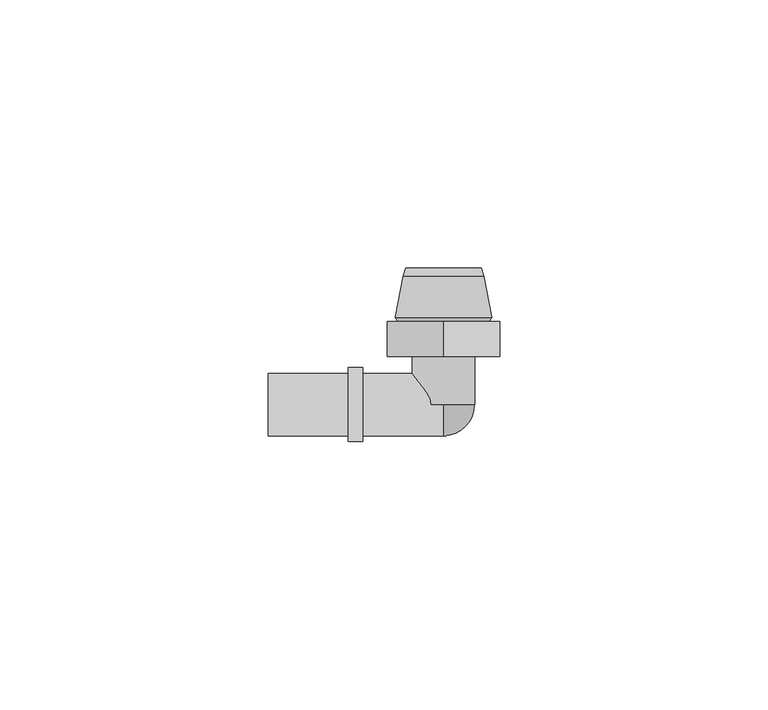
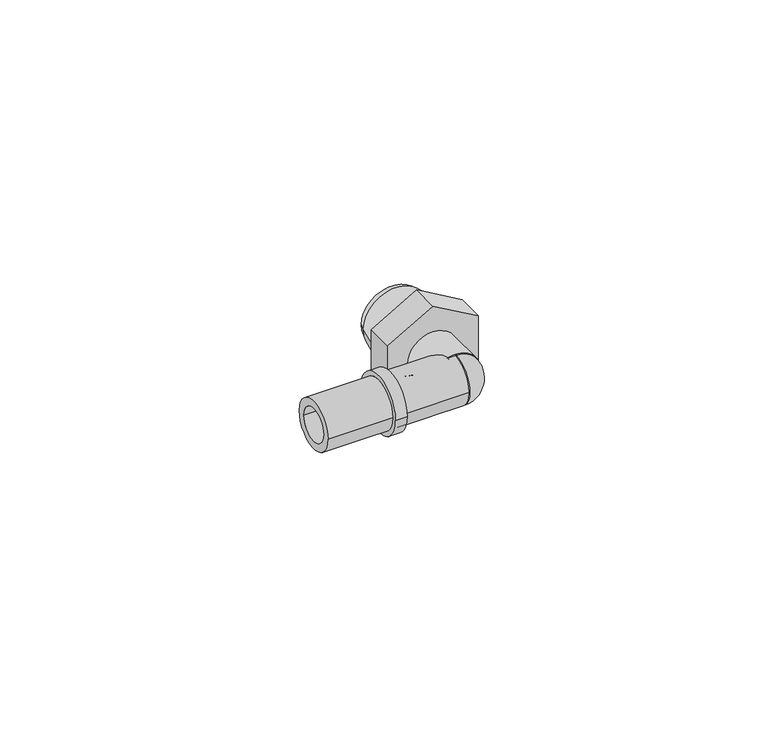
"""IFC4 building model written with IfcOpenShell, lengths in millimetres: pipe fitting geometry, FASTLOC_Elbow with male thread G LX : FSL A internal PL."""

from ifc_helpers import new_model, si_unit, point, frame, origin, origin_2d, place, context, project, spatial, polyline, circle_curve, ellipse_curve, trimmed, segment, composite_curve, outline, extrude, source, transform, mapped, element, save
from ifc_brep_helpers import plane_surface, cylinder_surface, revolved_surface, advanced_brep


def pipe_fitting_c4201b5f(model_context):
    return source(origin(), model_context, "Body", "SolidModel", [
        extrude(outline(composite_curve([segment(trimmed(circle_curve(origin_2d(), 5.8), [point((0.0, -5.8))], [point((0.0, 5.8))], False, "CARTESIAN"), True, "CONTINUOUS"), segment(trimmed(circle_curve(origin_2d(), 5.8), [point((0.0, 5.8))], [point((0.0, -5.8))], False, "CARTESIAN"), True, "CONTINUOUS")], self_intersect=False), holes=[composite_curve([segment(trimmed(circle_curve(origin_2d(), 3.95), [point((0.0, -3.95))], [point((0.0, 3.95))], True, "CARTESIAN"), True, "CONTINUOUS"), segment(trimmed(circle_curve(origin_2d(), 3.95), [point((0.0, 3.95))], [point((0.0, -3.95))], True, "CARTESIAN"), True, "CONTINUOUS")], self_intersect=False)]), frame((0.0, 0.0, 0.0), z_axis=(0.0, 1.0, 0.0), x_axis=(0.0, 0.0, 1.0)), (0.0, 0.0, 1.0), 9.0),
        extrude(outline(polyline([(-6.0621778, 10.5), (6.0621778, 10.5), (12.1243557, 0.0), (6.0621778, -10.5), (-6.0621778, -10.5), (-12.1243557, 0.0), (-6.0621778, 10.5)])), frame((0.0, 9.0, 0.0), z_axis=(0.0, 1.0, 0.0), x_axis=(0.0, 0.0, 1.0)), (0.0, 0.0, 1.0), 6.5),
        advanced_brep(
        [(0.0, -5.8, 0.0), (0.0, 0.0, 5.8), (0.0, 0.0, 3.75), (0.0, -3.75, 0.0), (0.0, 0.0, -3.75), (0.0, 0.0, -5.8)],
        [
            (0, 1, circle_curve(frame((0.0, 0.0, 0.0), z_axis=(-1.0, 0.0, 0.0), x_axis=(0.0, 0.0, 1.0)), 5.8)),
            (1, 2),
            (2, 3, circle_curve(frame((0.0, 0.0, 0.0), z_axis=(1.0, 0.0, 0.0), x_axis=(0.0, 0.0, 1.0)), 3.75)),
            (3, 0),
            (3, 4, circle_curve(frame((0.0, 0.0, 0.0), z_axis=(1.0, 0.0, 0.0), x_axis=(0.0, 0.0, -1.0)), 3.75)),
            (4, 5),
            (5, 0, circle_curve(frame((0.0, 0.0, 0.0), z_axis=(-1.0, 0.0, 0.0), x_axis=(0.0, 0.0, -1.0)), 5.8)),
            (5, 1, circle_curve(frame((0.0, 0.0, 0.0), z_axis=(0.0, -1.0, 0.0), x_axis=(0.0, 0.0, 1.0)), 5.8)),
            (4, 2, circle_curve(frame((0.0, 0.0, 0.0), z_axis=(0.0, -1.0, 0.0), x_axis=(0.0, 0.0, 1.0)), 3.75)),
        ],
        [
            plane_surface(frame((0.0, 0.0, 0.0), z_axis=(-1.0, 0.0, 0.0), x_axis=(0.0, 0.0, 1.0))),
            plane_surface(frame((0.0, 0.0, 0.0), z_axis=(-1.0, 0.0, 0.0), x_axis=(0.0, 0.0, -1.0))),
            revolved_surface(trimmed(ellipse_curve(frame((0.0, 0.0, 0.0), z_axis=(-1.0, 0.0, 0.0), x_axis=(0.0, 0.0, 1.0)), 5.8, 5.8), [point((0.0, -5.8, 0.0))], [point((0.0, 0.0, 5.8))], True, "CARTESIAN"), (0.0, 0.0, 0.0), (0.0, 1.0, 0.0)),
            plane_surface(frame((0.0, 0.0, 0.0), z_axis=(0.0, 1.0, 0.0), x_axis=(0.0, 0.0, 1.0))),
            revolved_surface(trimmed(ellipse_curve(frame((0.0, 0.0, 0.0), z_axis=(1.0, 0.0, 0.0), x_axis=(0.0, 0.0, 1.0)), 3.75, 3.75), [point((0.0, 0.0, 3.75))], [point((0.0, -3.75, 0.0))], True, "CARTESIAN"), (0.0, 0.0, 0.0), (0.0, 1.0, 0.0)),
        ],
        [
            (0, [[1, 2, 3, 4]]),
            (1, [[5, 6, 7, -4]]),
            (2, [[8, -1, -7]]),
            (3, [[9, -2, -8, -6]]),
            (4, [[-3, -9, -5]]),
        ],
    ),
        advanced_brep(
        [(7.5, 24.0000007, 0.0), (-7.5, 24.0000007, 0.0), (-7.0, 25.5, 0.0), (7.0, 25.5, 0.0), (9.0, 16.2406902, 0.0), (-9.0, 16.2406902, 0.0), (8.5, 15.5, 0.0), (-8.5, 15.5, 0.0), (5.1, 16.6032803, 0.0), (-5.1, 16.6032803, 0.0), (-3.9967197, 15.5, 0.0), (3.9967197, 15.5, 0.0), (5.1, 25.5, 0.0), (-5.1, 25.5, 0.0)],
        [
            (0, 1, circle_curve(frame((0.0, 24.0000007, 0.0), z_axis=(0.0, 1.0, 0.0), x_axis=(-1.0, 0.0, 0.0)), 7.5)),
            (1, 2),
            (2, 3, circle_curve(frame((0.0, 25.5, 0.0), z_axis=(0.0, -1.0, 0.0), x_axis=(-1.0, 0.0, 0.0)), 7.0)),
            (3, 0),
            (4, 5, circle_curve(frame((0.0, 16.2406902, 0.0), z_axis=(0.0, 1.0, 0.0), x_axis=(-1.0, 0.0, 0.0)), 9.0)),
            (5, 1),
            (0, 4),
            (6, 7, circle_curve(frame((0.0, 15.5, 0.0), z_axis=(0.0, 1.0, 0.0), x_axis=(-1.0, 0.0, 0.0)), 8.5)),
            (7, 5),
            (4, 6),
            (8, 9, circle_curve(frame((0.0, 16.6032803, 0.0), z_axis=(0.0, 1.0, 0.0), x_axis=(-1.0, 0.0, 0.0)), 5.1)),
            (9, 10),
            (10, 11, circle_curve(frame((0.0, 15.5, 0.0), z_axis=(0.0, -1.0, 0.0), x_axis=(-1.0, 0.0, 0.0)), 3.9967197)),
            (11, 8),
            (12, 13, circle_curve(frame((0.0, 25.5, 0.0), z_axis=(0.0, 1.0, 0.0), x_axis=(-1.0, 0.0, 0.0)), 5.1)),
            (13, 9),
            (8, 12),
            (2, 3, circle_curve(frame((0.0, 25.5, 0.0), z_axis=(0.0, 1.0, 0.0), x_axis=(1.0, 0.0, 0.0)), 7.0)),
            (12, 13, circle_curve(frame((0.0, 25.5, 0.0), z_axis=(0.0, -1.0, 0.0), x_axis=(1.0, 0.0, 0.0)), 5.1)),
            (1, 0, circle_curve(frame((0.0, 24.0000007, 0.0), z_axis=(0.0, 1.0, 0.0), x_axis=(1.0, 0.0, 0.0)), 7.5)),
            (5, 4, circle_curve(frame((0.0, 16.2406902, 0.0), z_axis=(0.0, 1.0, 0.0), x_axis=(1.0, 0.0, 0.0)), 9.0)),
            (7, 6, circle_curve(frame((0.0, 15.5, 0.0), z_axis=(0.0, 1.0, 0.0), x_axis=(1.0, 0.0, 0.0)), 8.5)),
            (10, 11, circle_curve(frame((0.0, 15.5, 0.0), z_axis=(0.0, 1.0, 0.0), x_axis=(1.0, 0.0, 0.0)), 3.9967197)),
            (9, 8, circle_curve(frame((0.0, 16.6032803, 0.0), z_axis=(0.0, 1.0, 0.0), x_axis=(1.0, 0.0, 0.0)), 5.1)),
        ],
        [
            revolved_surface(polyline([(-7.0, 25.5, 0.0), (-7.5, 24.0000007, 0.0)]), (0.0, 9.0, 0.0), (0.0, -1.0, 0.0)),
            revolved_surface(polyline([(-7.5, 24.0000007, 0.0), (-9.0, 16.2406902, 0.0)]), (0.0, 9.0, 0.0), (0.0, -1.0, 0.0)),
            revolved_surface(polyline([(-9.0, 16.2406902, 0.0), (-8.5, 15.5, 0.0)]), (0.0, 9.0, 0.0), (0.0, -1.0, 0.0)),
            revolved_surface(polyline([(-3.9967197, 15.5, 0.0), (-5.1, 16.6032803, 0.0)]), (0.0, 9.0, 0.0), (0.0, -1.0, 0.0)),
            revolved_surface(polyline([(-5.1, 16.6032803, 0.0), (-5.1, 25.5, 0.0)]), (0.0, 9.0, 0.0), (0.0, -1.0, 0.0)),
            plane_surface(frame((0.0, 25.5, 0.0), z_axis=(0.0, 1.0, 0.0), x_axis=(1.0, 0.0, 0.0))),
            revolved_surface(polyline([(7.0, 25.5, 0.0), (7.5, 24.0000007, 0.0)]), (0.0, 9.0, 0.0), (0.0, -1.0, 0.0)),
            revolved_surface(polyline([(7.5, 24.0000007, 0.0), (9.0, 16.2406902, 0.0)]), (0.0, 9.0, 0.0), (0.0, -1.0, 0.0)),
            revolved_surface(polyline([(9.0, 16.2406902, 0.0), (8.5, 15.5, 0.0)]), (0.0, 9.0, 0.0), (0.0, -1.0, 0.0)),
            plane_surface(frame((0.0, 15.5, 0.0), z_axis=(0.0, -1.0, 0.0), x_axis=(1.0, 0.0, 0.0))),
            revolved_surface(polyline([(3.9967197, 15.5, 0.0), (5.1, 16.6032803, 0.0)]), (0.0, 9.0, 0.0), (0.0, -1.0, 0.0)),
            revolved_surface(polyline([(5.1, 16.6032803, 0.0), (5.1, 25.5, 0.0)]), (0.0, 9.0, 0.0), (0.0, -1.0, 0.0)),
        ],
        [
            (0, [[1, 2, 3, 4]]),
            (1, [[5, 6, -1, 7]]),
            (2, [[8, 9, -5, 10]]),
            (3, [[11, 12, 13, 14]]),
            (4, [[15, 16, -11, 17]]),
            (5, [[18, -3], [19, -15]]),
            (6, [[20, -4, -18, -2]]),
            (7, [[21, -7, -20, -6]]),
            (8, [[22, -10, -21, -9]]),
            (9, [[-22, -8], [23, -13]]),
            (10, [[24, -14, -23, -12]]),
            (11, [[-19, -17, -24, -16]]),
        ],
    ),
        advanced_brep(
        [(-17.8, 5.8, 0.0), (-17.8, -5.8, 0.0), (-32.7, -5.8, 0.0), (-32.7, 5.8, 0.0), (-15.1, 6.9, 0.0), (-15.1, -6.9, 0.0), (-17.8, -6.9, 0.0), (-17.8, 6.9, 0.0), (0.0, 5.8, 0.0), (0.0, -5.8, 0.0), (-15.1, -5.8, 0.0), (-15.1, 5.8, 0.0), (-32.7, 3.95, 0.0), (-32.7, -3.95, 0.0), (0.0, -3.95, 0.0), (0.0, 3.95, 0.0)],
        [
            (0, 1, circle_curve(frame((-17.8, 0.0, 0.0), z_axis=(-1.0, 0.0, 0.0), x_axis=(0.0, -1.0, 0.0)), 5.8)),
            (1, 2),
            (2, 3, circle_curve(frame((-32.7, 0.0, 0.0), z_axis=(1.0, 0.0, 0.0), x_axis=(0.0, -1.0, 0.0)), 5.8)),
            (3, 0),
            (4, 5, circle_curve(frame((-15.1, 0.0, 0.0), z_axis=(-1.0, 0.0, 0.0), x_axis=(0.0, -1.0, 0.0)), 6.9)),
            (5, 6),
            (6, 7, circle_curve(frame((-17.8, 0.0, 0.0), z_axis=(1.0, 0.0, 0.0), x_axis=(0.0, -1.0, 0.0)), 6.9)),
            (7, 4),
            (8, 9, circle_curve(frame((0.0, 0.0, 0.0), z_axis=(-1.0, 0.0, 0.0), x_axis=(0.0, -1.0, 0.0)), 5.8)),
            (9, 10),
            (10, 11, circle_curve(frame((-15.1, 0.0, 0.0), z_axis=(1.0, 0.0, 0.0), x_axis=(0.0, -1.0, 0.0)), 5.8)),
            (11, 8),
            (12, 13, circle_curve(frame((-32.7, 0.0, 0.0), z_axis=(-1.0, 0.0, 0.0), x_axis=(0.0, -1.0, 0.0)), 3.95)),
            (13, 14),
            (14, 15, circle_curve(frame((0.0, 0.0, 0.0), z_axis=(1.0, 0.0, 0.0), x_axis=(0.0, -1.0, 0.0)), 3.95)),
            (15, 12),
            (2, 3, circle_curve(frame((-32.7, 0.0, 0.0), z_axis=(-1.0, 0.0, 0.0), x_axis=(0.0, 1.0, 0.0)), 5.8)),
            (12, 13, circle_curve(frame((-32.7, 0.0, 0.0), z_axis=(1.0, 0.0, 0.0), x_axis=(0.0, 1.0, 0.0)), 3.95)),
            (1, 0, circle_curve(frame((-17.8, 0.0, 0.0), z_axis=(-1.0, 0.0, 0.0), x_axis=(0.0, 1.0, 0.0)), 5.8)),
            (6, 7, circle_curve(frame((-17.8, 0.0, 0.0), z_axis=(-1.0, 0.0, 0.0), x_axis=(0.0, 1.0, 0.0)), 6.9)),
            (5, 4, circle_curve(frame((-15.1, 0.0, 0.0), z_axis=(-1.0, 0.0, 0.0), x_axis=(0.0, 1.0, 0.0)), 6.9)),
            (10, 11, circle_curve(frame((-15.1, 0.0, 0.0), z_axis=(-1.0, 0.0, 0.0), x_axis=(0.0, 1.0, 0.0)), 5.8)),
            (9, 8, circle_curve(frame((0.0, 0.0, 0.0), z_axis=(-1.0, 0.0, 0.0), x_axis=(0.0, 1.0, 0.0)), 5.8)),
            (14, 15, circle_curve(frame((0.0, 0.0, 0.0), z_axis=(-1.0, 0.0, 0.0), x_axis=(0.0, 1.0, 0.0)), 3.95)),
        ],
        [
            cylinder_surface(frame((0.0, 0.0, 0.0), z_axis=(1.0, 0.0, 0.0), x_axis=(0.0, -1.0, 0.0)), 5.8),
            cylinder_surface(frame((0.0, 0.0, 0.0), z_axis=(1.0, 0.0, 0.0), x_axis=(0.0, -1.0, 0.0)), 6.9),
            revolved_surface(polyline([(0.0, -3.95, 0.0), (-32.7, -3.95, 0.0)]), (0.0, 0.0, 0.0), (1.0, 0.0, 0.0)),
            plane_surface(frame((-32.7, 0.0, 0.0), z_axis=(-1.0, 0.0, 0.0), x_axis=(0.0, 1.0, 0.0))),
            cylinder_surface(frame((0.0, 0.0, 0.0), z_axis=(1.0, 0.0, 0.0), x_axis=(0.0, 1.0, 0.0)), 5.8),
            plane_surface(frame((-17.8, 0.0, 0.0), z_axis=(-1.0, 0.0, 0.0), x_axis=(0.0, 1.0, 0.0))),
            cylinder_surface(frame((0.0, 0.0, 0.0), z_axis=(1.0, 0.0, 0.0), x_axis=(0.0, 1.0, 0.0)), 6.9),
            plane_surface(frame((-15.1, 0.0, 0.0), z_axis=(1.0, 0.0, 0.0), x_axis=(0.0, 1.0, 0.0))),
            plane_surface(frame((0.0, 0.0, 0.0), z_axis=(1.0, 0.0, 0.0), x_axis=(0.0, 1.0, 0.0))),
            revolved_surface(polyline([(0.0, 3.95, 0.0), (-32.7, 3.95, 0.0)]), (0.0, 0.0, 0.0), (1.0, 0.0, 0.0)),
        ],
        [
            (0, [[1, 2, 3, 4]]),
            (1, [[5, 6, 7, 8]]),
            (0, [[9, 10, 11, 12]]),
            (2, [[13, 14, 15, 16]]),
            (3, [[17, -3], [18, -13]]),
            (4, [[19, -4, -17, -2]]),
            (5, [[20, -7], [-19, -1]]),
            (6, [[21, -8, -20, -6]]),
            (7, [[-21, -5], [22, -11]]),
            (4, [[23, -12, -22, -10]]),
            (8, [[-23, -9], [24, -15]]),
            (9, [[-18, -16, -24, -14]]),
        ],
    ),
    ])


if __name__ == "__main__":
    model = new_model("IFC4")
    model_context = context("Model", 3, world=origin())
    ifc_project = project(units=[si_unit("LENGTHUNIT", "METRE", prefix="MILLI")], contexts=[model_context])
    site = spatial("IfcSite", under=ifc_project)
    building = spatial("IfcBuilding", under=site)
    placement = place(None, origin())
    pipe_fitting_shape = pipe_fitting_c4201b5f(model_context)
    element("IfcPipeFitting", 1, ObjectType="FASTLOC_Elbow with male thread G LX : FSL A internal PL", at=placement, inside=building, context=model_context, shape_type="MappedRepresentation", body=[
        mapped(pipe_fitting_shape, transform((0.0, 0.0, 0.0), x_axis=(1.0, 0.0, 0.0), y_axis=(0.0, 1.0, 0.0), z_axis=(0.0, 0.0, 1.0))),
    ])
    save(model, "model.ifc")
